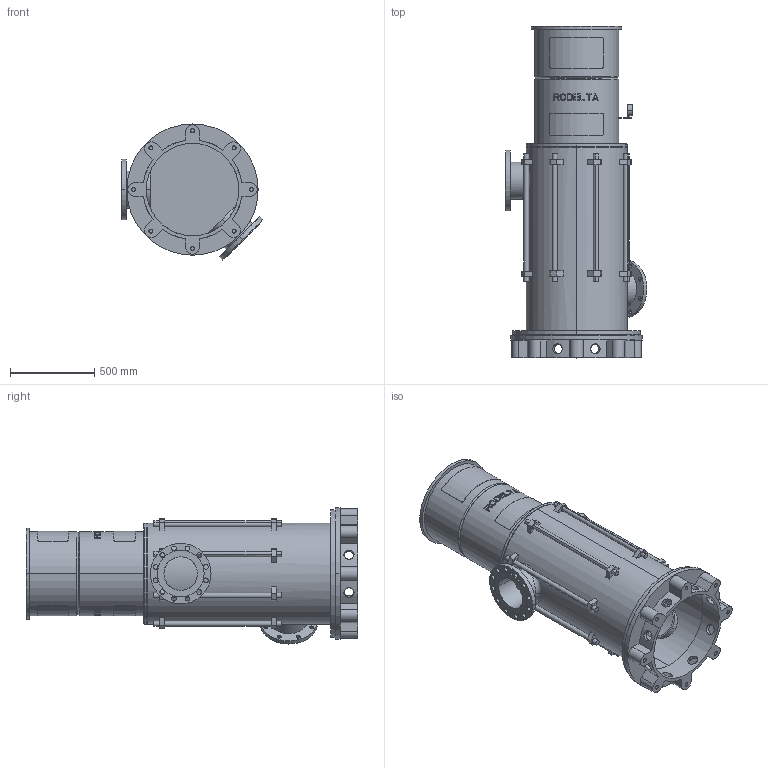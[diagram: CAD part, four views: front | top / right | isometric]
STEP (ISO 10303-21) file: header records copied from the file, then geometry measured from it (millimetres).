
FILE_DESCRIPTION((''),'2;1');
FILE_NAME('LS8_2TR_0GR_PN25','2025-10-24T13:17:52',('Lyritlocal'),(''),'CREO PARAMETRIC BY PTC INC, 2022014','CREO PARAMETRIC BY PTC INC, 2022014','');
FILE_SCHEMA(('CONFIG_CONTROL_DESIGN'));
Length unit declared in the file: millimetre
Products named in the file (1): LS8_2TR_0GR_PN25
Bounding box: 843.61 x 1972 x 808.61 mm (x, y, z)
Volume: 71197601.7 mm3; surface area: 9782472.4 mm2
Topology: 3 solids, 11 shells, 723 faces, 1878 edges, 1246 vertices
Faces by surface type: plane 440, cylinder 267, cone 12, bspline 4
Entity records: 23727 total; most frequent: CARTESIAN_POINT 6046, ORIENTED_EDGE 3724, DIRECTION 3488, EDGE_CURVE 1878, AXIS2_PLACEMENT_3D 1302, VERTEX_POINT 1246, EDGE_LOOP 888, VECTOR 884
